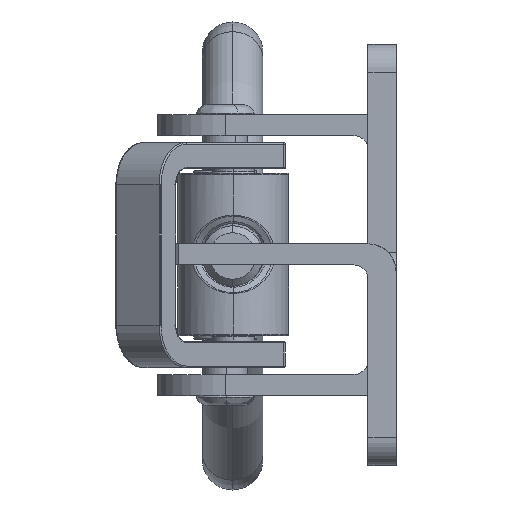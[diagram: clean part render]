
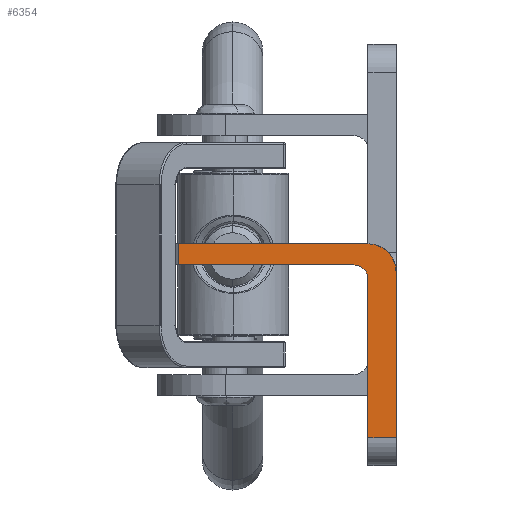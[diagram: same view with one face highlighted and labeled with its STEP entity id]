
A CAD part, left-side view. The second image highlights one B-rep face of the part: STEP entity #6354.
In plain terms, the highlighted planar face has unit normal (-1, 0, 0) as drawn and (0, 0, 1) by its records, which use the part's own axes.
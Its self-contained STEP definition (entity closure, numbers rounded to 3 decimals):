
#340 = VECTOR ( 'NONE', #7667, 1000. ) ;
#372 = DIRECTION ( 'NONE',  ( 0., 1., 0. ) ) ;
#577 = CARTESIAN_POINT ( 'NONE',  ( 14.3, 3., 0. ) ) ;
#599 = LINE ( 'NONE', #9242, #8685 ) ;
#707 = CARTESIAN_POINT ( 'NONE',  ( 13.8, 2., 0. ) ) ;
#745 = EDGE_CURVE ( 'NONE', #777, #6778, #9806, .T. ) ;
#777 = VERTEX_POINT ( 'NONE', #3794 ) ;
#1095 = EDGE_CURVE ( 'NONE', #4704, #8827, #6255, .T. ) ;
#1246 = ORIENTED_EDGE ( 'NONE', *, *, #2178, .T. ) ;
#1328 = LINE ( 'NONE', #5051, #5482 ) ;
#1348 = CARTESIAN_POINT ( 'NONE',  ( 0., 0., 0. ) ) ;
#1425 = AXIS2_PLACEMENT_3D ( 'NONE', #2080, #7548, #2861 ) ;
#1436 = CARTESIAN_POINT ( 'NONE',  ( 14.3, 15.486, 0. ) ) ;
#1492 = DIRECTION ( 'NONE',  ( -1., 0., 0. ) ) ;
#1567 = CARTESIAN_POINT ( 'NONE',  ( 0., 2., 0. ) ) ;
#1966 = DIRECTION ( 'NONE',  ( -1., 0., 0. ) ) ;
#2080 = CARTESIAN_POINT ( 'NONE',  ( 13.3, 3., 0. ) ) ;
#2178 = EDGE_CURVE ( 'NONE', #7863, #5692, #599, .T. ) ;
#2422 = LINE ( 'NONE', #1348, #340 ) ;
#2626 = ORIENTED_EDGE ( 'NONE', *, *, #5926, .T. ) ;
#2691 = LINE ( 'NONE', #1567, #8695 ) ;
#2861 = DIRECTION ( 'NONE',  ( -1., 0., 0. ) ) ;
#2904 = EDGE_CURVE ( 'NONE', #5692, #4704, #9155, .T. ) ;
#2985 = EDGE_CURVE ( 'NONE', #6778, #4410, #2422, .T. ) ;
#3006 = DIRECTION ( 'NONE',  ( 0., -1., 0. ) ) ;
#3043 = EDGE_LOOP ( 'NONE', ( #7417, #2626, #8710, #1246, #6518, #9940, #4418, #7551 ) ) ;
#3565 = CARTESIAN_POINT ( 'NONE',  ( 15.8, 2., 0. ) ) ;
#3794 = CARTESIAN_POINT ( 'NONE',  ( 2., 2., 0. ) ) ;
#4410 = VERTEX_POINT ( 'NONE', #7734 ) ;
#4418 = ORIENTED_EDGE ( 'NONE', *, *, #6002, .F. ) ;
#4445 = DIRECTION ( 'NONE',  ( 0., -1., 0. ) ) ;
#4547 = DIRECTION ( 'NONE',  ( -1., 0., 0. ) ) ;
#4704 = VERTEX_POINT ( 'NONE', #577 ) ;
#5045 = VERTEX_POINT ( 'NONE', #3565 ) ;
#5051 = CARTESIAN_POINT ( 'NONE',  ( 15.8, 0., 0. ) ) ;
#5072 = CARTESIAN_POINT ( 'NONE',  ( 0., 2., 0. ) ) ;
#5482 = VECTOR ( 'NONE', #372, 1000. ) ;
#5692 = VERTEX_POINT ( 'NONE', #1436 ) ;
#5762 = CIRCLE ( 'NONE', #9048, 2. ) ;
#5796 = EDGE_CURVE ( 'NONE', #5045, #7863, #1328, .T. ) ;
#5878 = VECTOR ( 'NONE', #3006, 1000. ) ;
#5926 = EDGE_CURVE ( 'NONE', #4410, #5045, #5762, .T. ) ;
#6002 = EDGE_CURVE ( 'NONE', #777, #8827, #2691, .T. ) ;
#6198 = DIRECTION ( 'NONE',  ( 0., 0., 1. ) ) ;
#6255 = CIRCLE ( 'NONE', #1425, 1. ) ;
#6265 = DIRECTION ( 'NONE',  ( 1., 0., 0. ) ) ;
#6354 = ADVANCED_FACE ( 'NONE', ( #7224 ), #9710, .F. ) ;
#6518 = ORIENTED_EDGE ( 'NONE', *, *, #2904, .T. ) ;
#6663 = DIRECTION ( 'NONE',  ( 0., 0., -1. ) ) ;
#6778 = VERTEX_POINT ( 'NONE', #7589 ) ;
#6832 = VECTOR ( 'NONE', #4445, 1000. ) ;
#7224 = FACE_OUTER_BOUND ( 'NONE', #3043, .T. ) ;
#7417 = ORIENTED_EDGE ( 'NONE', *, *, #2985, .T. ) ;
#7548 = DIRECTION ( 'NONE',  ( 0., 0., -1. ) ) ;
#7551 = ORIENTED_EDGE ( 'NONE', *, *, #745, .T. ) ;
#7589 = CARTESIAN_POINT ( 'NONE',  ( 2., 0., 0. ) ) ;
#7667 = DIRECTION ( 'NONE',  ( 1., 0., 0. ) ) ;
#7691 = CARTESIAN_POINT ( 'NONE',  ( 2., 2., 0. ) ) ;
#7734 = CARTESIAN_POINT ( 'NONE',  ( 13.8, 0., 0. ) ) ;
#7863 = VERTEX_POINT ( 'NONE', #9207 ) ;
#8397 = AXIS2_PLACEMENT_3D ( 'NONE', #5072, #6663, #1966 ) ;
#8685 = VECTOR ( 'NONE', #4547, 1000. ) ;
#8695 = VECTOR ( 'NONE', #6265, 1000. ) ;
#8710 = ORIENTED_EDGE ( 'NONE', *, *, #5796, .T. ) ;
#8827 = VERTEX_POINT ( 'NONE', #8927 ) ;
#8927 = CARTESIAN_POINT ( 'NONE',  ( 13.3, 2., 0. ) ) ;
#9048 = AXIS2_PLACEMENT_3D ( 'NONE', #707, #6198, #1492 ) ;
#9142 = CARTESIAN_POINT ( 'NONE',  ( 14.3, 17., 0. ) ) ;
#9155 = LINE ( 'NONE', #9142, #6832 ) ;
#9207 = CARTESIAN_POINT ( 'NONE',  ( 15.8, 15.486, 0. ) ) ;
#9242 = CARTESIAN_POINT ( 'NONE',  ( 34., 15.486, 0. ) ) ;
#9710 = PLANE ( 'NONE',  #8397 ) ;
#9806 = LINE ( 'NONE', #7691, #5878 ) ;
#9940 = ORIENTED_EDGE ( 'NONE', *, *, #1095, .T. ) ;
